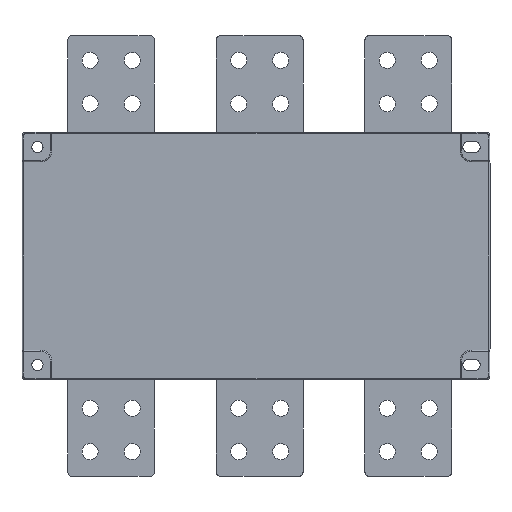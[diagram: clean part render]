
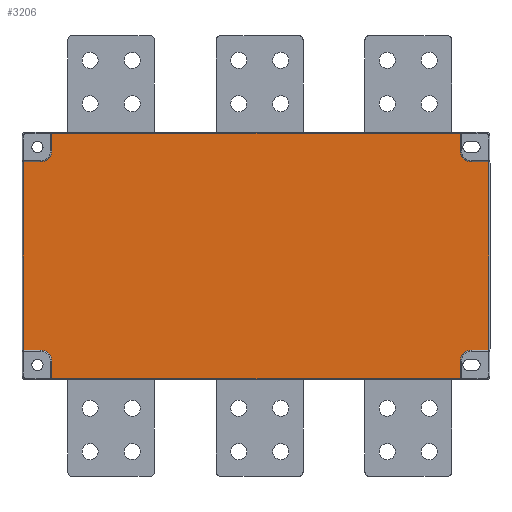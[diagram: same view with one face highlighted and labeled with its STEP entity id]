
A CAD part, front view. The second image highlights one B-rep face of the part: STEP entity #3206.
In plain terms, the highlighted planar face has unit normal (0, -1, 0).
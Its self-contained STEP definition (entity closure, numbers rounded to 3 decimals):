
#1=CARTESIAN_POINT('',(-174.,0.,-85.));
#2=DIRECTION('',(0.,-1.,0.));
#3=DIRECTION('',(1.,0.,0.));
#4=AXIS2_PLACEMENT_3D('',#1,#2,#3);
#6=DIRECTION('',(-1.,0.,0.));
#7=VECTOR('',#6,14.);
#8=CARTESIAN_POINT('',(-174.,0.,-76.));
#9=LINE('',#8,#7);
#10=CARTESIAN_POINT('',(-174.,0.,85.));
#11=DIRECTION('',(0.,-1.,0.));
#12=DIRECTION('',(0.,0.,-1.));
#13=AXIS2_PLACEMENT_3D('',#10,#11,#12);
#15=DIRECTION('',(0.,0.,1.));
#16=VECTOR('',#15,14.);
#17=CARTESIAN_POINT('',(-165.,0.,85.));
#18=LINE('',#17,#16);
#19=CARTESIAN_POINT('',(174.,0.,85.));
#20=DIRECTION('',(0.,-1.,0.));
#21=DIRECTION('',(-1.,0.,0.));
#22=AXIS2_PLACEMENT_3D('',#19,#20,#21);
#24=DIRECTION('',(1.,0.,0.));
#25=VECTOR('',#24,14.);
#26=CARTESIAN_POINT('',(174.,0.,76.));
#27=LINE('',#26,#25);
#28=CARTESIAN_POINT('',(174.,0.,-85.));
#29=DIRECTION('',(0.,-1.,0.));
#30=DIRECTION('',(0.,0.,1.));
#31=AXIS2_PLACEMENT_3D('',#28,#29,#30);
#33=DIRECTION('',(0.,0.,-1.));
#34=VECTOR('',#33,14.);
#35=CARTESIAN_POINT('',(165.,0.,-85.));
#36=LINE('',#35,#34);
#41=DIRECTION('',(1.,0.,0.));
#42=VECTOR('',#41,330.);
#43=CARTESIAN_POINT('',(-165.,0.,-99.));
#44=LINE('',#43,#42);
#1436=DIRECTION('',(0.,0.,1.));
#1437=VECTOR('',#1436,152.);
#1438=CARTESIAN_POINT('',(188.,0.,-76.));
#1439=LINE('',#1438,#1437);
#1456=DIRECTION('',(1.,0.,0.));
#1457=VECTOR('',#1456,14.);
#1458=CARTESIAN_POINT('',(174.,0.,-76.));
#1459=LINE('',#1458,#1457);
#1844=DIRECTION('',(0.,0.,1.));
#1845=VECTOR('',#1844,14.);
#1846=CARTESIAN_POINT('',(165.,0.,85.));
#1847=LINE('',#1846,#1845);
#1868=DIRECTION('',(-1.,0.,0.));
#1869=VECTOR('',#1868,330.);
#1870=CARTESIAN_POINT('',(165.,0.,99.));
#1871=LINE('',#1870,#1869);
#1942=DIRECTION('',(-1.,0.,0.));
#1943=VECTOR('',#1942,14.);
#1944=CARTESIAN_POINT('',(-174.,0.,76.));
#1945=LINE('',#1944,#1943);
#1966=DIRECTION('',(0.,0.,-1.));
#1967=VECTOR('',#1966,152.);
#1968=CARTESIAN_POINT('',(-188.,0.,76.));
#1969=LINE('',#1968,#1967);
#2040=DIRECTION('',(0.,0.,-1.));
#2041=VECTOR('',#2040,14.);
#2042=CARTESIAN_POINT('',(-165.,0.,-85.));
#2043=LINE('',#2042,#2041);
#2465=CARTESIAN_POINT('',(-165.,0.,-99.));
#2466=CARTESIAN_POINT('',(165.,0.,-99.));
#2467=VERTEX_POINT('',#2465);
#2468=VERTEX_POINT('',#2466);
#2469=CARTESIAN_POINT('',(-165.,0.,-85.));
#2470=VERTEX_POINT('',#2469);
#2471=CARTESIAN_POINT('',(-174.,0.,-76.));
#2472=VERTEX_POINT('',#2471);
#2473=CARTESIAN_POINT('',(-188.,0.,-76.));
#2474=VERTEX_POINT('',#2473);
#2475=CARTESIAN_POINT('',(-188.,0.,76.));
#2476=VERTEX_POINT('',#2475);
#2477=CARTESIAN_POINT('',(-174.,0.,76.));
#2478=VERTEX_POINT('',#2477);
#2479=CARTESIAN_POINT('',(-165.,0.,85.));
#2480=VERTEX_POINT('',#2479);
#2481=CARTESIAN_POINT('',(-165.,0.,99.));
#2482=VERTEX_POINT('',#2481);
#2483=CARTESIAN_POINT('',(165.,0.,99.));
#2484=VERTEX_POINT('',#2483);
#2485=CARTESIAN_POINT('',(165.,0.,85.));
#2486=VERTEX_POINT('',#2485);
#2487=CARTESIAN_POINT('',(174.,0.,76.));
#2488=VERTEX_POINT('',#2487);
#2489=CARTESIAN_POINT('',(188.,0.,76.));
#2490=VERTEX_POINT('',#2489);
#2491=CARTESIAN_POINT('',(188.,0.,-76.));
#2492=VERTEX_POINT('',#2491);
#2493=CARTESIAN_POINT('',(174.,0.,-76.));
#2494=VERTEX_POINT('',#2493);
#2495=CARTESIAN_POINT('',(165.,0.,-85.));
#2496=VERTEX_POINT('',#2495);
#3167=CARTESIAN_POINT('',(0.,0.,0.));
#3168=DIRECTION('',(0.,1.,0.));
#3169=DIRECTION('',(1.,0.,0.));
#3170=AXIS2_PLACEMENT_3D('',#3167,#3168,#3169);
#3171=PLANE('',#3170);
#3173=ORIENTED_EDGE('',*,*,#3172,.F.);
#3175=ORIENTED_EDGE('',*,*,#3174,.F.);
#3177=ORIENTED_EDGE('',*,*,#3176,.T.);
#3179=ORIENTED_EDGE('',*,*,#3178,.T.);
#3181=ORIENTED_EDGE('',*,*,#3180,.F.);
#3183=ORIENTED_EDGE('',*,*,#3182,.F.);
#3185=ORIENTED_EDGE('',*,*,#3184,.T.);
#3187=ORIENTED_EDGE('',*,*,#3186,.T.);
#3189=ORIENTED_EDGE('',*,*,#3188,.F.);
#3191=ORIENTED_EDGE('',*,*,#3190,.F.);
#3193=ORIENTED_EDGE('',*,*,#3192,.T.);
#3195=ORIENTED_EDGE('',*,*,#3194,.T.);
#3197=ORIENTED_EDGE('',*,*,#3196,.F.);
#3199=ORIENTED_EDGE('',*,*,#3198,.F.);
#3201=ORIENTED_EDGE('',*,*,#3200,.T.);
#3203=ORIENTED_EDGE('',*,*,#3202,.T.);
#3204=EDGE_LOOP('',(#3173,#3175,#3177,#3179,#3181,#3183,#3185,#3187,#3189,#3191,
#3193,#3195,#3197,#3199,#3201,#3203));
#3205=FACE_OUTER_BOUND('',#3204,.F.);
#5=CIRCLE('',#4,9.);
#14=CIRCLE('',#13,9.);
#23=CIRCLE('',#22,9.);
#32=CIRCLE('',#31,9.);
#3172=EDGE_CURVE('',#2467,#2468,#44,.T.);
#3174=EDGE_CURVE('',#2470,#2467,#2043,.T.);
#3176=EDGE_CURVE('',#2470,#2472,#5,.T.);
#3178=EDGE_CURVE('',#2472,#2474,#9,.T.);
#3180=EDGE_CURVE('',#2476,#2474,#1969,.T.);
#3182=EDGE_CURVE('',#2478,#2476,#1945,.T.);
#3184=EDGE_CURVE('',#2478,#2480,#14,.T.);
#3186=EDGE_CURVE('',#2480,#2482,#18,.T.);
#3188=EDGE_CURVE('',#2484,#2482,#1871,.T.);
#3190=EDGE_CURVE('',#2486,#2484,#1847,.T.);
#3192=EDGE_CURVE('',#2486,#2488,#23,.T.);
#3194=EDGE_CURVE('',#2488,#2490,#27,.T.);
#3196=EDGE_CURVE('',#2492,#2490,#1439,.T.);
#3198=EDGE_CURVE('',#2494,#2492,#1459,.T.);
#3200=EDGE_CURVE('',#2494,#2496,#32,.T.);
#3202=EDGE_CURVE('',#2496,#2468,#36,.T.);
#3206=ADVANCED_FACE('',(#3205),#3171,.F.);
